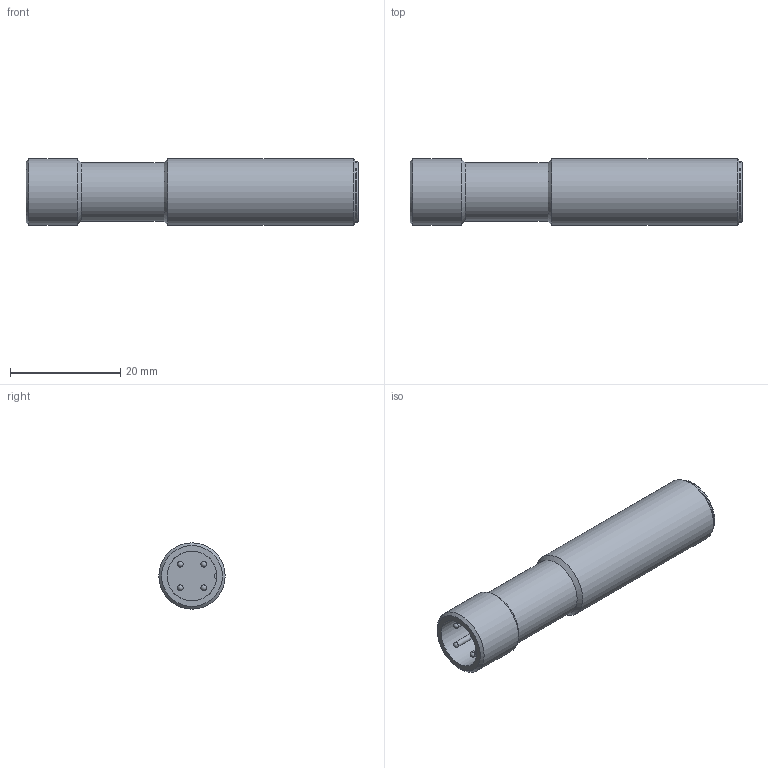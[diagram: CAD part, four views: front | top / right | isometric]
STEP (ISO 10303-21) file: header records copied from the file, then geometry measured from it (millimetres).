
FILE_DESCRIPTION((''),'2;1');
FILE_NAME('J:\Projekte\Kunststoff-Blechteile\Zeichnungen\Bibliothek Inventor\3D Solids\nano\STP\nano-24\nano-24_CIU.stp','2013-05-06T09:34:23',('Oliver Liedtke'),(''),'Autodesk Inventor 2013','Autodesk Inventor 2013','');
FILE_SCHEMA(('AUTOMOTIVE_DESIGN { 1 0 10303 214 1 1 1 1 }'));
Length unit declared in the file: millimetre
Products named in the file (1): nano-24_CIU
Bounding box: 60.1 x 12 x 12 mm (x, y, z)
Volume: 5906.5 mm3; surface area: 2732.8 mm2
Topology: 1 solids, 1 shells, 27 faces, 58 edges, 32 vertices
Faces by surface type: cylinder 12, plane 6, sphere 4, cone 4, torus 1
Full cylindrical faces by diameter (mm): 1 x4, 7.8 x1, 9 x1, 9.5 x1, 10.6 x1, 11.2 x1, 12 x2
Entity records: 649 total; most frequent: DIRECTION 112, CARTESIAN_POINT 84, ORIENTED_EDGE 58, AXIS2_PLACEMENT_3D 55, EDGE_LOOP 50, EDGE_CURVE 29, STYLED_ITEM 28, VERTEX_POINT 27
